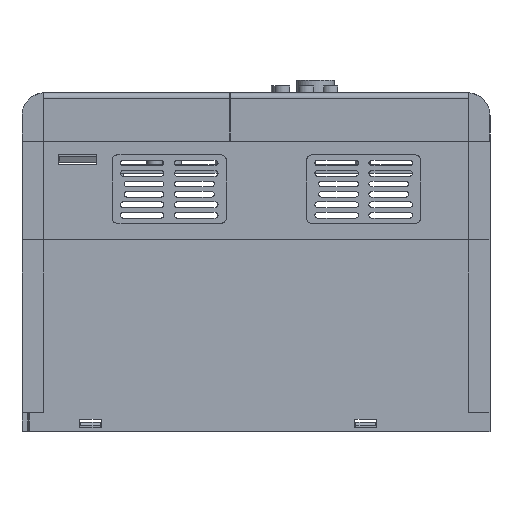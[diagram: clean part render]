
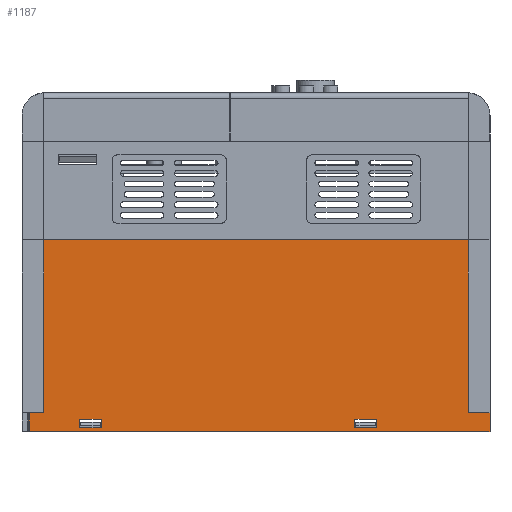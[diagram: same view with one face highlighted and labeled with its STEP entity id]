
A CAD part, left-side view. The second image highlights one B-rep face of the part: STEP entity #1187.
In plain terms, the highlighted planar face has unit normal (-1, 0, 0).
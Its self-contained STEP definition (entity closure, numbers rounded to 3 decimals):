
#1187=ADVANCED_FACE('',(#12846,#12848,#12850),#12852,.T.);
#12846=FACE_BOUND('',#12847,.T.);
#12847=EDGE_LOOP('',(#44058,#44059,#44060,#44061,#44062,#44063,#44064,#44065));
#12848=FACE_BOUND('',#12849,.T.);
#12849=EDGE_LOOP('',(#44066,#44067,#44068,#44069));
#12850=FACE_BOUND('',#12851,.T.);
#12851=EDGE_LOOP('',(#44070,#44071,#44072,#44073));
#12852=PLANE('',#12853);
#12853=AXIS2_PLACEMENT_3D('',#12854,#12855,#12856);
#12854=CARTESIAN_POINT('',(-50.2,156.377,0.));
#12855=DIRECTION('',(-1.,0.,0.));
#12856=DIRECTION('',(0.,-1.,0.));
#44058=ORIENTED_EDGE('',*,*,#64074,.T.);
#44059=ORIENTED_EDGE('',*,*,#64102,.T.);
#44060=ORIENTED_EDGE('',*,*,#64103,.T.);
#44061=ORIENTED_EDGE('',*,*,#64104,.F.);
#44062=ORIENTED_EDGE('',*,*,#64105,.T.);
#44063=ORIENTED_EDGE('',*,*,#63913,.T.);
#44064=ORIENTED_EDGE('',*,*,#64100,.T.);
#44065=ORIENTED_EDGE('',*,*,#64106,.T.);
#44066=ORIENTED_EDGE('',*,*,#64107,.T.);
#44067=ORIENTED_EDGE('',*,*,#64108,.T.);
#44068=ORIENTED_EDGE('',*,*,#64109,.T.);
#44069=ORIENTED_EDGE('',*,*,#64110,.T.);
#44070=ORIENTED_EDGE('',*,*,#64111,.T.);
#44071=ORIENTED_EDGE('',*,*,#64112,.T.);
#44072=ORIENTED_EDGE('',*,*,#64113,.T.);
#44073=ORIENTED_EDGE('',*,*,#64114,.T.);
#63913=EDGE_CURVE('',#74613,#74611,#74614,.T.);
#64074=EDGE_CURVE('',#74869,#74870,#74871,.T.);
#64100=EDGE_CURVE('',#74611,#74917,#74919,.T.);
#64102=EDGE_CURVE('',#74870,#74922,#74923,.F.);
#64103=EDGE_CURVE('',#74922,#74924,#74925,.T.);
#64104=EDGE_CURVE('',#74926,#74924,#74927,.T.);
#64105=EDGE_CURVE('',#74926,#74613,#74928,.T.);
#64106=EDGE_CURVE('',#74917,#74869,#74929,.F.);
#64107=EDGE_CURVE('',#74930,#74931,#74932,.F.);
#64108=EDGE_CURVE('',#74931,#74933,#74934,.F.);
#64109=EDGE_CURVE('',#74933,#74935,#74936,.F.);
#64110=EDGE_CURVE('',#74935,#74930,#74937,.F.);
#64111=EDGE_CURVE('',#74938,#74939,#74940,.F.);
#64112=EDGE_CURVE('',#74939,#74941,#74942,.F.);
#64113=EDGE_CURVE('',#74941,#74943,#74944,.F.);
#64114=EDGE_CURVE('',#74943,#74938,#74945,.F.);
#74611=VERTEX_POINT('',#93047);
#74613=VERTEX_POINT('',#93051);
#74614=LINE('',#93052,#93053);
#74869=VERTEX_POINT('',#93658);
#74870=VERTEX_POINT('',#93659);
#74871=LINE('',#93660,#93661);
#74917=VERTEX_POINT('',#93756);
#74919=LINE('',#93760,#93761);
#74922=VERTEX_POINT('',#93768);
#74923=LINE('',#93769,#93770);
#74924=VERTEX_POINT('',#93772);
#74925=LINE('',#93773,#93774);
#74926=VERTEX_POINT('',#93776);
#74927=LINE('',#93777,#93778);
#74928=LINE('',#93780,#93781);
#74929=LINE('',#93783,#93784);
#74930=VERTEX_POINT('',#93786);
#74931=VERTEX_POINT('',#93787);
#74932=LINE('',#93788,#93789);
#74933=VERTEX_POINT('',#93791);
#74934=LINE('',#93792,#93793);
#74935=VERTEX_POINT('',#93795);
#74936=LINE('',#93796,#93797);
#74937=LINE('',#93799,#93800);
#74938=VERTEX_POINT('',#93802);
#74939=VERTEX_POINT('',#93803);
#74940=LINE('',#93804,#93805);
#74941=VERTEX_POINT('',#93807);
#74942=LINE('',#93808,#93809);
#74943=VERTEX_POINT('',#93811);
#74944=LINE('',#93812,#93813);
#74945=LINE('',#93815,#93816);
#93047=CARTESIAN_POINT('',(-50.2,-86.3,10.));
#93051=CARTESIAN_POINT('',(-50.2,-86.3,0.));
#93052=CARTESIAN_POINT('',(-50.2,-86.3,0.));
#93053=VECTOR('',#93054,1.);
#93054=DIRECTION('',(0.,0.,1.));
#93658=CARTESIAN_POINT('',(-50.2,-74.8,101.));
#93659=CARTESIAN_POINT('',(-50.2,148.8,101.));
#93660=CARTESIAN_POINT('',(-50.2,-74.8,101.));
#93661=VECTOR('',#93662,1.);
#93662=DIRECTION('',(0.,1.,0.));
#93756=CARTESIAN_POINT('',(-50.2,-74.8,10.));
#93760=CARTESIAN_POINT('',(-50.2,-86.3,10.));
#93761=VECTOR('',#93762,1.);
#93762=DIRECTION('',(0.,1.,0.));
#93768=CARTESIAN_POINT('',(-50.2,148.8,10.));
#93769=CARTESIAN_POINT('',(-50.2,148.8,10.));
#93770=VECTOR('',#93771,1.);
#93771=DIRECTION('',(0.,0.,1.));
#93772=CARTESIAN_POINT('',(-50.2,156.377,10.));
#93773=CARTESIAN_POINT('',(-50.2,148.8,10.));
#93774=VECTOR('',#93775,1.);
#93775=DIRECTION('',(0.,1.,0.));
#93776=CARTESIAN_POINT('',(-50.2,156.377,0.));
#93777=CARTESIAN_POINT('',(-50.2,156.377,0.));
#93778=VECTOR('',#93779,1.);
#93779=DIRECTION('',(0.,0.,1.));
#93780=CARTESIAN_POINT('',(-50.2,156.377,0.));
#93781=VECTOR('',#93782,1.);
#93782=DIRECTION('',(0.,-1.,0.));
#93783=CARTESIAN_POINT('',(-50.2,-74.8,101.));
#93784=VECTOR('',#93785,1.);
#93785=DIRECTION('',(0.,0.,-1.));
#93786=CARTESIAN_POINT('',(-50.2,130.,2.));
#93787=CARTESIAN_POINT('',(-50.2,130.,6.5));
#93788=CARTESIAN_POINT('',(-50.2,130.,6.5));
#93789=VECTOR('',#93790,1.);
#93790=DIRECTION('',(0.,0.,-1.));
#93791=CARTESIAN_POINT('',(-50.2,118.5,6.5));
#93792=CARTESIAN_POINT('',(-50.2,118.5,6.5));
#93793=VECTOR('',#93794,1.);
#93794=DIRECTION('',(0.,1.,0.));
#93795=CARTESIAN_POINT('',(-50.2,118.5,2.));
#93796=CARTESIAN_POINT('',(-50.2,118.5,2.));
#93797=VECTOR('',#93798,1.);
#93798=DIRECTION('',(0.,0.,1.));
#93799=CARTESIAN_POINT('',(-50.2,130.,2.));
#93800=VECTOR('',#93801,1.);
#93801=DIRECTION('',(0.,-1.,0.));
#93802=CARTESIAN_POINT('',(-50.2,-15.1,6.5));
#93803=CARTESIAN_POINT('',(-50.2,-26.6,6.5));
#93804=CARTESIAN_POINT('',(-50.2,-26.6,6.5));
#93805=VECTOR('',#93806,1.);
#93806=DIRECTION('',(0.,1.,0.));
#93807=CARTESIAN_POINT('',(-50.2,-26.6,2.));
#93808=CARTESIAN_POINT('',(-50.2,-26.6,2.));
#93809=VECTOR('',#93810,1.);
#93810=DIRECTION('',(0.,0.,1.));
#93811=CARTESIAN_POINT('',(-50.2,-15.1,2.));
#93812=CARTESIAN_POINT('',(-50.2,-15.1,2.));
#93813=VECTOR('',#93814,1.);
#93814=DIRECTION('',(0.,-1.,0.));
#93815=CARTESIAN_POINT('',(-50.2,-15.1,6.5));
#93816=VECTOR('',#93817,1.);
#93817=DIRECTION('',(0.,0.,-1.));
